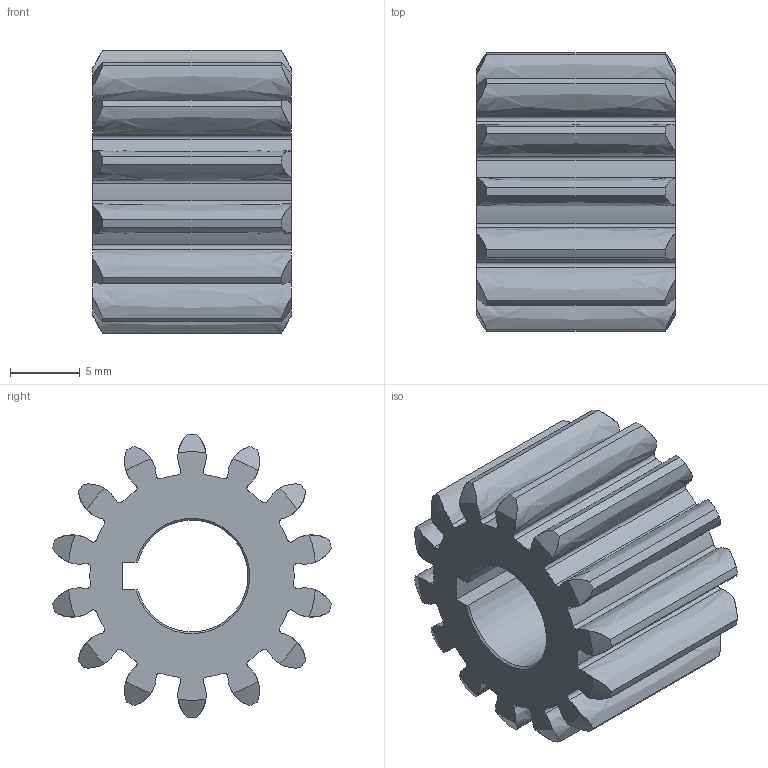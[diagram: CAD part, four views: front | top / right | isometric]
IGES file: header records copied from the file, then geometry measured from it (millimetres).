
Global section: file name: No Iges File Name specified; native system: AutoDesk Inventor R6.0; preprocessor: AutoDesk Inventor Iges Exporter R6.0; author: No Author specified; organization: No Organization specified; date: 20080106.124216; units: inch
Bounding box: 14.22 x 19.94 x 20.32 mm (x, y, z)
Surface area: 2387 mm2 (no closed solid volume)
Topology: 0 solids, 0 shells, 120 faces, 708 edges, 708 vertices
Faces by surface type: revolution 115, plane 5
